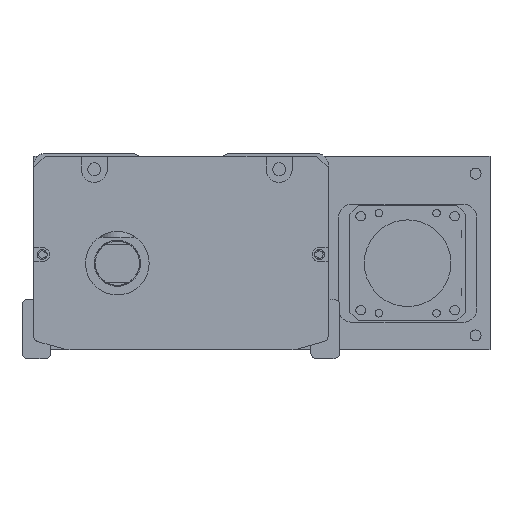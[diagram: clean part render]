
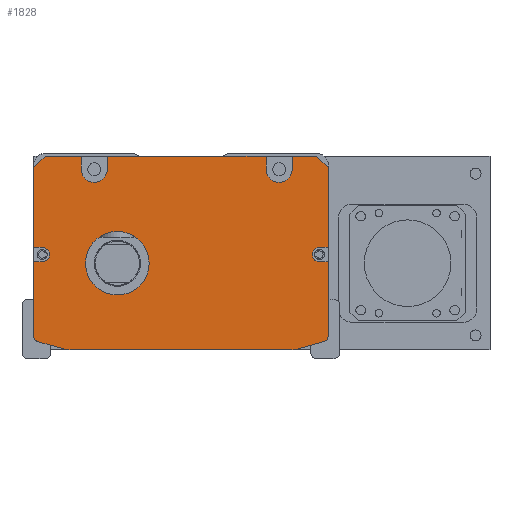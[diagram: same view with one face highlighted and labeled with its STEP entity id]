
A CAD part, front view. The second image highlights one B-rep face of the part: STEP entity #1828.
In plain terms, the highlighted planar face has unit normal (0, -1, 0).
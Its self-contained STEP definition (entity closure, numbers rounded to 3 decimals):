
#1828=ADVANCED_FACE('',(#4376,#4377),#2367,.F.);
#2367=PLANE('',#13833);
#2900=LINE('',#26666,#3695);
#2904=LINE('',#26675,#3699);
#2912=LINE('',#26702,#3707);
#2916=LINE('',#26711,#3711);
#2923=LINE('',#26727,#3718);
#2925=LINE('',#26732,#3720);
#2940=LINE('',#26775,#3735);
#2942=LINE('',#26783,#3737);
#2945=LINE('',#26787,#3740);
#2966=LINE('',#26855,#3761);
#2970=LINE('',#26864,#3765);
#2974=LINE('',#26873,#3769);
#2978=LINE('',#26882,#3773);
#2982=LINE('',#26898,#3777);
#2986=LINE('',#26904,#3781);
#2987=LINE('',#26905,#3782);
#2989=LINE('',#26921,#3784);
#2990=LINE('',#26922,#3785);
#2991=LINE('',#26923,#3786);
#2992=LINE('',#26924,#3787);
#3695=VECTOR('',#16325,1.);
#3699=VECTOR('',#16331,1.);
#3707=VECTOR('',#16353,1.);
#3711=VECTOR('',#16359,1.);
#3718=VECTOR('',#16368,1.);
#3720=VECTOR('',#16372,1.);
#3735=VECTOR('',#16411,1.);
#3737=VECTOR('',#16421,1.);
#3740=VECTOR('',#16426,1.);
#3761=VECTOR('',#16501,1.);
#3765=VECTOR('',#16507,1.);
#3769=VECTOR('',#16513,1.);
#3773=VECTOR('',#16519,1.);
#3777=VECTOR('',#16537,1.);
#3781=VECTOR('',#16541,1.);
#3782=VECTOR('',#16542,1.);
#3784=VECTOR('',#16566,1.);
#3785=VECTOR('',#16567,1.);
#3786=VECTOR('',#16568,1.);
#3787=VECTOR('',#16569,1.);
#4376=FACE_BOUND('',#5246,.T.);
#4377=FACE_BOUND('',#5247,.T.);
#5246=EDGE_LOOP('',(#7701,#7702,#7703,#7704,#7705,#7706,#7707,#7708,#7709,
#7710,#7711,#7712,#7713,#7714,#7715,#7716,#7717,#7718,#7719,#7720,#7721,
#7722,#7723,#7724,#7725,#7726,#7727,#7728));
#5247=EDGE_LOOP('',(#7729));
#7701=ORIENTED_EDGE('',*,*,#11662,.T.);
#7702=ORIENTED_EDGE('',*,*,#11539,.T.);
#7703=ORIENTED_EDGE('',*,*,#11649,.T.);
#7704=ORIENTED_EDGE('',*,*,#11566,.F.);
#7705=ORIENTED_EDGE('',*,*,#11603,.T.);
#7706=ORIENTED_EDGE('',*,*,#11568,.F.);
#7707=ORIENTED_EDGE('',*,*,#11654,.T.);
#7708=ORIENTED_EDGE('',*,*,#11555,.F.);
#7709=ORIENTED_EDGE('',*,*,#11600,.T.);
#7710=ORIENTED_EDGE('',*,*,#11559,.F.);
#7711=ORIENTED_EDGE('',*,*,#11653,.T.);
#7712=ORIENTED_EDGE('',*,*,#11543,.T.);
#7713=ORIENTED_EDGE('',*,*,#11663,.T.);
#7714=ORIENTED_EDGE('',*,*,#11633,.T.);
#7715=ORIENTED_EDGE('',*,*,#11661,.T.);
#7716=ORIENTED_EDGE('',*,*,#11629,.T.);
#7717=ORIENTED_EDGE('',*,*,#11664,.T.);
#7718=ORIENTED_EDGE('',*,*,#11586,.T.);
#7719=ORIENTED_EDGE('',*,*,#11589,.T.);
#7720=ORIENTED_EDGE('',*,*,#11592,.T.);
#7721=ORIENTED_EDGE('',*,*,#11593,.T.);
#7722=ORIENTED_EDGE('',*,*,#11549,.T.);
#7723=ORIENTED_EDGE('',*,*,#11596,.T.);
#7724=ORIENTED_EDGE('',*,*,#11551,.T.);
#7725=ORIENTED_EDGE('',*,*,#11665,.T.);
#7726=ORIENTED_EDGE('',*,*,#11641,.T.);
#7727=ORIENTED_EDGE('',*,*,#11660,.T.);
#7728=ORIENTED_EDGE('',*,*,#11637,.T.);
#7729=ORIENTED_EDGE('',*,*,#11605,.T.);
#10007=VERTEX_POINT('',#26667);
#10008=VERTEX_POINT('',#26668);
#10011=VERTEX_POINT('',#26676);
#10012=VERTEX_POINT('',#26677);
#10017=VERTEX_POINT('',#26688);
#10018=VERTEX_POINT('',#26690);
#10019=VERTEX_POINT('',#26694);
#10020=VERTEX_POINT('',#26695);
#10023=VERTEX_POINT('',#26703);
#10024=VERTEX_POINT('',#26704);
#10027=VERTEX_POINT('',#26712);
#10028=VERTEX_POINT('',#26713);
#10032=VERTEX_POINT('',#26722);
#10034=VERTEX_POINT('',#26726);
#10035=VERTEX_POINT('',#26730);
#10037=VERTEX_POINT('',#26733);
#10047=VERTEX_POINT('',#26763);
#10050=VERTEX_POINT('',#26768);
#10052=VERTEX_POINT('',#26774);
#10054=VERTEX_POINT('',#26780);
#10057=VERTEX_POINT('',#26806);
#10073=VERTEX_POINT('',#26853);
#10075=VERTEX_POINT('',#26856);
#10078=VERTEX_POINT('',#26863);
#10079=VERTEX_POINT('',#26865);
#10081=VERTEX_POINT('',#26871);
#10083=VERTEX_POINT('',#26874);
#10086=VERTEX_POINT('',#26881);
#10087=VERTEX_POINT('',#26883);
#11539=EDGE_CURVE('',#10007,#10008,#2900,.T.);
#11543=EDGE_CURVE('',#10011,#10012,#2904,.T.);
#11549=EDGE_CURVE('',#10018,#10017,#12708,.T.);
#11551=EDGE_CURVE('',#10019,#10020,#12709,.T.);
#11555=EDGE_CURVE('',#10023,#10024,#2912,.T.);
#11559=EDGE_CURVE('',#10027,#10028,#2916,.T.);
#11566=EDGE_CURVE('',#10034,#10032,#2923,.T.);
#11568=EDGE_CURVE('',#10035,#10037,#2925,.T.);
#11586=EDGE_CURVE('',#10047,#10050,#12716,.T.);
#11589=EDGE_CURVE('',#10050,#10052,#2940,.T.);
#11592=EDGE_CURVE('',#10052,#10054,#12718,.T.);
#11593=EDGE_CURVE('',#10054,#10018,#2942,.T.);
#11596=EDGE_CURVE('',#10017,#10019,#2945,.T.);
#11600=EDGE_CURVE('',#10023,#10028,#12721,.T.);
#11603=EDGE_CURVE('',#10034,#10037,#12724,.T.);
#11605=EDGE_CURVE('',#10057,#10057,#12725,.T.);
#11629=EDGE_CURVE('',#10075,#10073,#2966,.T.);
#11633=EDGE_CURVE('',#10079,#10078,#2970,.T.);
#11637=EDGE_CURVE('',#10083,#10081,#2974,.T.);
#11641=EDGE_CURVE('',#10087,#10086,#2978,.T.);
#11649=EDGE_CURVE('',#10008,#10032,#2982,.T.);
#11653=EDGE_CURVE('',#10027,#10011,#2986,.T.);
#11654=EDGE_CURVE('',#10035,#10024,#2987,.T.);
#11660=EDGE_CURVE('',#10086,#10083,#12739,.T.);
#11661=EDGE_CURVE('',#10078,#10075,#12740,.T.);
#11662=EDGE_CURVE('',#10081,#10007,#2989,.T.);
#11663=EDGE_CURVE('',#10012,#10079,#2990,.T.);
#11664=EDGE_CURVE('',#10073,#10047,#2991,.T.);
#11665=EDGE_CURVE('',#10020,#10087,#2992,.T.);
#12708=CIRCLE('',#13760,10.);
#12709=CIRCLE('',#13762,2.);
#12716=CIRCLE('',#13778,2.);
#12718=CIRCLE('',#13782,10.);
#12721=CIRCLE('',#13790,4.5);
#12724=CIRCLE('',#13795,4.5);
#12725=CIRCLE('',#13798,11.);
#12739=CIRCLE('',#13829,2.5);
#12740=CIRCLE('',#13831,2.5);
#13760=AXIS2_PLACEMENT_3D('',#26689,#16340,#16341);
#13762=AXIS2_PLACEMENT_3D('',#26693,#16345,#16346);
#13778=AXIS2_PLACEMENT_3D('',#26769,#16405,#16406);
#13782=AXIS2_PLACEMENT_3D('',#26781,#16417,#16418);
#13790=AXIS2_PLACEMENT_3D('',#26795,#16438,#16439);
#13795=AXIS2_PLACEMENT_3D('',#26801,#16448,#16449);
#13798=AXIS2_PLACEMENT_3D('',#26805,#16455,#16456);
#13829=AXIS2_PLACEMENT_3D('',#26917,#16558,#16559);
#13831=AXIS2_PLACEMENT_3D('',#26919,#16562,#16563);
#13833=AXIS2_PLACEMENT_3D('',#26925,#16570,#16571);
#16325=DIRECTION('',(-0.707,0.,0.707));
#16331=DIRECTION('',(-0.707,0.,-0.707));
#16340=DIRECTION('',(0.,-1.,0.));
#16341=DIRECTION('',(0.,0.,-1.));
#16345=DIRECTION('',(0.,-1.,0.));
#16346=DIRECTION('',(0.,0.,-1.));
#16353=DIRECTION('',(0.,0.,1.));
#16359=DIRECTION('',(0.,0.,-1.));
#16368=DIRECTION('',(0.,0.,1.));
#16372=DIRECTION('',(0.,0.,-1.));
#16405=DIRECTION('',(0.,-1.,0.));
#16406=DIRECTION('',(0.,0.,1.));
#16411=DIRECTION('',(0.963,0.,-0.269));
#16417=DIRECTION('',(0.,-1.,0.));
#16418=DIRECTION('',(0.,0.,1.));
#16421=DIRECTION('',(1.,0.,0.));
#16426=DIRECTION('',(0.963,0.,0.269));
#16438=DIRECTION('',(0.,1.,0.));
#16439=DIRECTION('',(0.,0.,1.));
#16448=DIRECTION('',(0.,1.,0.));
#16449=DIRECTION('',(0.,0.,1.));
#16455=DIRECTION('',(0.,1.,0.));
#16456=DIRECTION('',(0.,0.,1.));
#16501=DIRECTION('',(-1.,0.,0.));
#16507=DIRECTION('',(1.,0.,0.));
#16513=DIRECTION('',(1.,0.,0.));
#16519=DIRECTION('',(-1.,0.,0.));
#16537=DIRECTION('',(-1.,0.,0.));
#16541=DIRECTION('',(-1.,0.,0.));
#16542=DIRECTION('',(-1.,0.,0.));
#16558=DIRECTION('',(0.,1.,0.));
#16559=DIRECTION('',(0.,0.,1.));
#16562=DIRECTION('',(0.,1.,0.));
#16563=DIRECTION('',(0.,0.,1.));
#16566=DIRECTION('',(0.,0.,1.));
#16567=DIRECTION('',(0.,0.,-1.));
#16568=DIRECTION('',(0.,0.,-1.));
#16569=DIRECTION('',(0.,0.,1.));
#16570=DIRECTION('',(0.,1.,0.));
#16571=DIRECTION('',(-1.,0.,0.));
#26666=CARTESIAN_POINT('',(43.808,-317.5,-1.));
#26667=CARTESIAN_POINT('',(47.808,-317.5,-5.));
#26668=CARTESIAN_POINT('',(43.808,-317.5,-1.));
#26675=CARTESIAN_POINT('',(-54.192,-317.5,-5.));
#26676=CARTESIAN_POINT('',(-50.192,-317.5,-1.));
#26677=CARTESIAN_POINT('',(-54.192,-317.5,-5.));
#26688=CARTESIAN_POINT('',(37.424,-317.5,-67.631));
#26689=CARTESIAN_POINT('',(34.733,-317.5,-58.));
#26690=CARTESIAN_POINT('',(34.733,-317.5,-68.));
#26693=CARTESIAN_POINT('',(45.808,-317.5,-63.212));
#26694=CARTESIAN_POINT('',(46.346,-317.5,-65.138));
#26695=CARTESIAN_POINT('',(47.808,-317.5,-63.212));
#26702=CARTESIAN_POINT('',(-28.692,-317.5,-3.5));
#26703=CARTESIAN_POINT('',(-28.692,-317.5,-5.5));
#26704=CARTESIAN_POINT('',(-28.692,-317.5,-1.));
#26711=CARTESIAN_POINT('',(-37.692,-317.5,-1.));
#26712=CARTESIAN_POINT('',(-37.692,-317.5,-1.));
#26713=CARTESIAN_POINT('',(-37.692,-317.5,-5.5));
#26722=CARTESIAN_POINT('',(35.308,-317.5,-1.));
#26726=CARTESIAN_POINT('',(35.308,-317.5,-5.5));
#26727=CARTESIAN_POINT('',(35.308,-317.5,-1.));
#26730=CARTESIAN_POINT('',(26.308,-317.5,-1.));
#26732=CARTESIAN_POINT('',(26.308,-317.5,-1.));
#26733=CARTESIAN_POINT('',(26.308,-317.5,-5.5));
#26763=CARTESIAN_POINT('',(-54.192,-317.5,-63.212));
#26768=CARTESIAN_POINT('',(-52.731,-317.5,-65.138));
#26769=CARTESIAN_POINT('',(-52.192,-317.5,-63.212));
#26774=CARTESIAN_POINT('',(-43.809,-317.5,-67.631));
#26775=CARTESIAN_POINT('',(-55.807,-317.5,-64.279));
#26780=CARTESIAN_POINT('',(-41.118,-317.5,-68.));
#26781=CARTESIAN_POINT('',(-41.118,-317.5,-58.));
#26783=CARTESIAN_POINT('',(-54.692,-317.5,-68.));
#26787=CARTESIAN_POINT('',(49.422,-317.5,-64.279));
#26795=CARTESIAN_POINT('',(-33.192,-317.5,-5.5));
#26801=CARTESIAN_POINT('',(30.808,-317.5,-5.5));
#26805=CARTESIAN_POINT('',(-25.192,-317.5,-38.));
#26806=CARTESIAN_POINT('',(-25.192,-317.5,-27.));
#26853=CARTESIAN_POINT('',(-54.192,-317.5,-37.5));
#26855=CARTESIAN_POINT('',(-3.192,-317.5,-37.5));
#26856=CARTESIAN_POINT('',(-51.192,-317.5,-37.5));
#26863=CARTESIAN_POINT('',(-51.192,-317.5,-32.5));
#26864=CARTESIAN_POINT('',(-3.192,-317.5,-32.5));
#26865=CARTESIAN_POINT('',(-54.192,-317.5,-32.5));
#26871=CARTESIAN_POINT('',(47.808,-317.5,-32.5));
#26873=CARTESIAN_POINT('',(-3.192,-317.5,-32.5));
#26874=CARTESIAN_POINT('',(44.808,-317.5,-32.5));
#26881=CARTESIAN_POINT('',(44.808,-317.5,-37.5));
#26882=CARTESIAN_POINT('',(-3.192,-317.5,-37.5));
#26883=CARTESIAN_POINT('',(47.808,-317.5,-37.5));
#26898=CARTESIAN_POINT('',(-3.192,-317.5,-1.));
#26904=CARTESIAN_POINT('',(-54.192,-317.5,-1.));
#26905=CARTESIAN_POINT('',(-54.192,-317.5,-1.));
#26917=CARTESIAN_POINT('',(44.808,-317.5,-35.));
#26919=CARTESIAN_POINT('',(-51.192,-317.5,-35.));
#26921=CARTESIAN_POINT('',(47.808,-317.5,-1.));
#26922=CARTESIAN_POINT('',(-54.192,-317.5,-62.));
#26923=CARTESIAN_POINT('',(-54.192,-317.5,-62.));
#26924=CARTESIAN_POINT('',(47.808,-317.5,-1.));
#26925=CARTESIAN_POINT('',(-3.192,-317.5,-1.));
